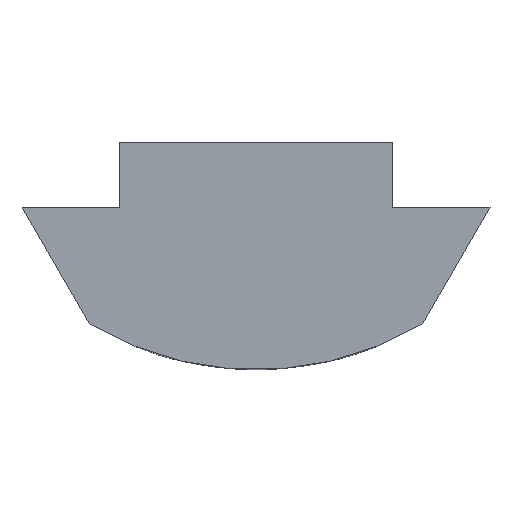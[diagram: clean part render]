
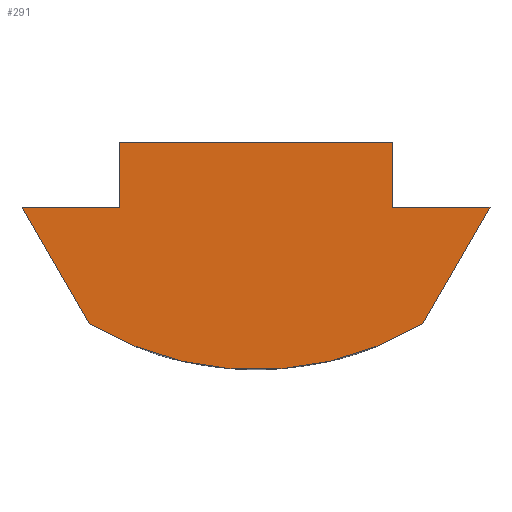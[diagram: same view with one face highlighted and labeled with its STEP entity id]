
A CAD part, front view. The second image highlights one B-rep face of the part: STEP entity #291.
In plain terms, the highlighted planar face has unit normal (0, -1, 0).
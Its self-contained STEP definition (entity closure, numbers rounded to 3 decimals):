
#27=PLANE('',#310);
#33=LINE('',#391,#55);
#37=LINE('',#400,#59);
#41=LINE('',#409,#63);
#42=LINE('',#414,#64);
#46=LINE('',#421,#68);
#47=LINE('',#423,#69);
#50=LINE('',#428,#72);
#55=VECTOR('',#326,1000.);
#59=VECTOR('',#332,1000.);
#63=VECTOR('',#338,1000.);
#64=VECTOR('',#345,1000.);
#68=VECTOR('',#351,1000.);
#69=VECTOR('',#354,1000.);
#72=VECTOR('',#361,1000.);
#74=CIRCLE('',#300,5.);
#116=ORIENTED_EDGE('',*,*,#153,.F.);
#117=ORIENTED_EDGE('',*,*,#143,.F.);
#118=ORIENTED_EDGE('',*,*,#150,.F.);
#119=ORIENTED_EDGE('',*,*,#149,.T.);
#120=ORIENTED_EDGE('',*,*,#139,.F.);
#121=ORIENTED_EDGE('',*,*,#145,.F.);
#122=ORIENTED_EDGE('',*,*,#135,.F.);
#123=ORIENTED_EDGE('',*,*,#131,.F.);
#131=EDGE_CURVE('',#157,#158,#74,.T.);
#135=EDGE_CURVE('',#158,#160,#33,.T.);
#139=EDGE_CURVE('',#164,#161,#37,.T.);
#143=EDGE_CURVE('',#168,#166,#41,.T.);
#145=EDGE_CURVE('',#160,#164,#42,.T.);
#149=EDGE_CURVE('',#170,#161,#46,.T.);
#150=EDGE_CURVE('',#170,#168,#47,.T.);
#153=EDGE_CURVE('',#166,#157,#50,.T.);
#157=VERTEX_POINT('',#382);
#158=VERTEX_POINT('',#384);
#160=VERTEX_POINT('',#389);
#161=VERTEX_POINT('',#394);
#164=VERTEX_POINT('',#399);
#166=VERTEX_POINT('',#404);
#168=VERTEX_POINT('',#408);
#170=VERTEX_POINT('',#418);
#185=EDGE_LOOP('',(#116,#117,#118,#119,#120,#121,#122,#123));
#199=FACE_BOUND('',#185,.T.);
#291=ADVANCED_FACE('',(#199),#27,.F.);
#300=AXIS2_PLACEMENT_3D('',#383,#319,#320);
#310=AXIS2_PLACEMENT_3D('',#427,#359,#360);
#319=DIRECTION('',(0.,1.,0.));
#320=DIRECTION('',(-0.513,0.,0.858));
#326=DIRECTION('',(-0.5,0.,0.866));
#332=DIRECTION('',(0.,0.,1.));
#338=DIRECTION('',(1.,0.,0.));
#345=DIRECTION('',(1.,0.,0.));
#351=DIRECTION('',(-1.,0.,0.));
#354=DIRECTION('',(0.,0.,-1.));
#359=DIRECTION('',(0.,1.,0.));
#360=DIRECTION('',(0.,0.,1.));
#361=DIRECTION('',(-0.5,0.,-0.866));
#382=CARTESIAN_POINT('',(2.566,-5.,-4.292));
#383=CARTESIAN_POINT('',(0.,-5.,0.));
#384=CARTESIAN_POINT('',(-2.566,-5.,-4.292));
#389=CARTESIAN_POINT('',(-3.6,-5.,-2.5));
#391=CARTESIAN_POINT('',(-3.6,-5.,-2.5));
#394=CARTESIAN_POINT('',(-2.1,-5.,-1.5));
#399=CARTESIAN_POINT('',(-2.1,-5.,-2.5));
#400=CARTESIAN_POINT('',(-2.1,-5.,-1.5));
#404=CARTESIAN_POINT('',(3.6,-5.,-2.5));
#408=CARTESIAN_POINT('',(2.1,-5.,-2.5));
#409=CARTESIAN_POINT('',(3.6,-5.,-2.5));
#414=CARTESIAN_POINT('',(-2.1,-5.,-2.5));
#418=CARTESIAN_POINT('',(2.1,-5.,-1.5));
#421=CARTESIAN_POINT('',(2.1,-5.,-1.5));
#423=CARTESIAN_POINT('',(2.1,-5.,-2.5));
#427=CARTESIAN_POINT('',(0.,-5.,-3.057));
#428=CARTESIAN_POINT('',(2.566,-5.,-4.292));
